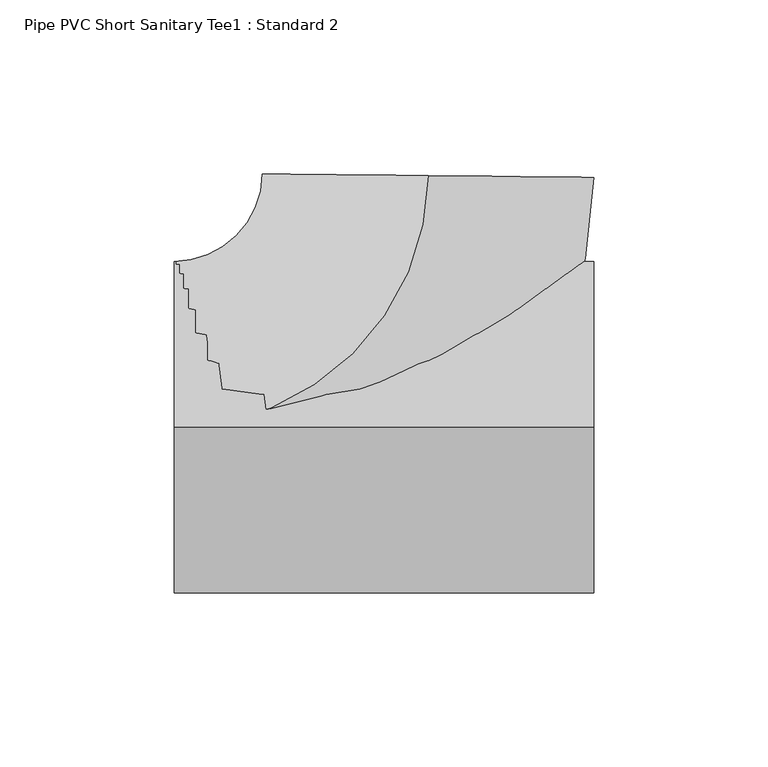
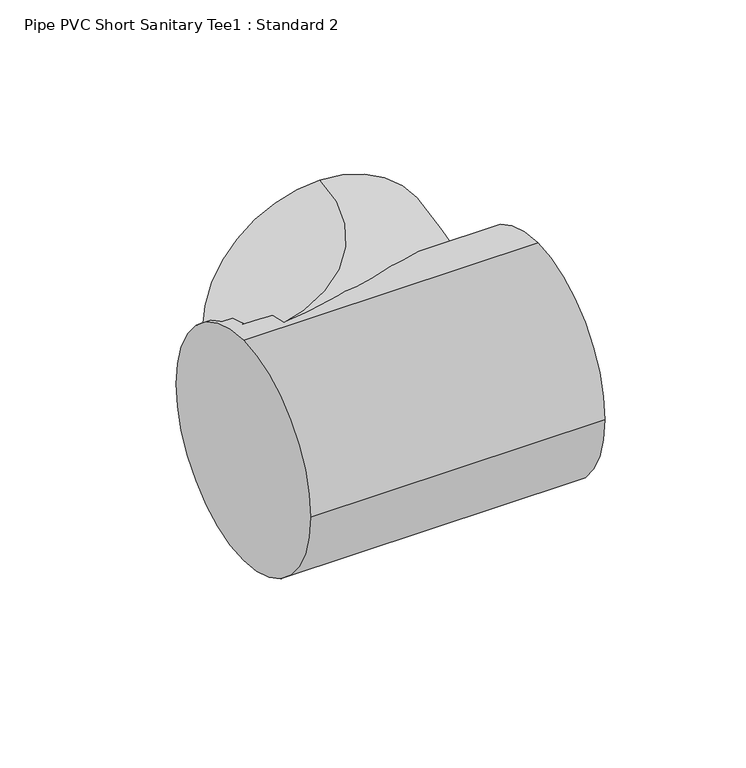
"""IFC4 building model written with IfcOpenShell, lengths in millimetres: pipe fitting geometry, Pipe PVC Short Sanitary Tee1 : Standard 2."""

from ifc_helpers import new_model, si_unit, point, frame, origin, origin_2d, place, context, project, spatial, circle_curve, ellipse_curve, trimmed, segment, composite_curve, outline, extrude, source, transform, mapped, element, save
from ifc_brep_helpers import plane_surface, revolved_surface, advanced_brep


def pipe_pvc_short_sanitary_tee1_standard_2_b39521ca(model_context):
    return source(origin(), model_context, "Body", "SolidModel", [
        extrude(outline(composite_curve([segment(trimmed(circle_curve(origin_2d(), 47.625), [point((0.0, 47.625))], [point((47.625, 0.0))], False, "CARTESIAN"), True, "CONTINUOUS"), segment(trimmed(circle_curve(origin_2d(), 47.625), [point((47.625, 0.0))], [point((0.0, -47.625))], False, "CARTESIAN"), True, "CONTINUOUS"), segment(trimmed(circle_curve(origin_2d(), 47.625), [point((0.0, -47.625))], [point((-47.625, 0.0))], False, "CARTESIAN"), True, "CONTINUOUS"), segment(trimmed(circle_curve(origin_2d(), 47.625), [point((-47.625, 0.0))], [point((0.0, 47.625))], False, "CARTESIAN"), True, "CONTINUOUS")], self_intersect=False)), frame((-72.2594639, 0.0, 0.0), z_axis=(1.0, 0.0, 0.0), x_axis=(0.0, 1.0, 0.0)), (0.0, 0.0, 1.0), 120.6459451),
        advanced_brep(
        [(-72.2594639, 0.0, 47.625), (-72.2594639, 47.625, 0.0), (-72.2594639, 0.0, -47.625), (-72.2594639, -47.625, 0.0), (0.7614812, 72.2554515, 47.625), (48.3838367, 71.753572, 0.0), (0.7614812, 72.2554515, -47.625), (-46.8608743, 72.7573309, 0.0)],
        [
            (0, 1, circle_curve(frame((-72.2594639, 0.0, 0.0), z_axis=(-1.0, 0.0, 0.0), x_axis=(0.0, 1.0, 0.0)), 47.625)),
            (1, 2, circle_curve(frame((-72.2594639, 0.0, 0.0), z_axis=(-1.0, 0.0, 0.0), x_axis=(0.0, 1.0, 0.0)), 47.625)),
            (2, 3, circle_curve(frame((-72.2594639, 0.0, 0.0), z_axis=(-1.0, 0.0, 0.0), x_axis=(0.0, 1.0, 0.0)), 47.625)),
            (3, 0, circle_curve(frame((-72.2594639, 0.0, 0.0), z_axis=(-1.0, 0.0, 0.0), x_axis=(0.0, 1.0, 0.0)), 47.625)),
            (4, 5, circle_curve(frame((0.7614812, 72.2554515, 0.0), z_axis=(0.010538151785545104, 0.9999444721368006, 0.0), x_axis=(-0.9999444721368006, 0.010538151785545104, 0.0)), 47.625)),
            (5, 6, circle_curve(frame((0.7614812, 72.2554515, 0.0), z_axis=(0.010538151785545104, 0.9999444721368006, 0.0), x_axis=(-0.9999444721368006, 0.010538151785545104, 0.0)), 47.625)),
            (6, 7, circle_curve(frame((0.7614812, 72.2554515, 0.0), z_axis=(0.010538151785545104, 0.9999444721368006, 0.0), x_axis=(-0.9999444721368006, 0.010538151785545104, 0.0)), 47.625)),
            (7, 4, circle_curve(frame((0.7614812, 72.2554515, 0.0), z_axis=(0.010538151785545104, 0.9999444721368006, 0.0), x_axis=(-0.9999444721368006, 0.010538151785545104, 0.0)), 47.625)),
            (7, 1, circle_curve(frame((-72.2594639, 73.025, 0.0), z_axis=(0.0, 0.0, -1.0), x_axis=(0.0, -1.0, 0.0)), 25.4)),
            (0, 4, circle_curve(frame((-72.2594639, 73.025, 47.625), z_axis=(0.0, 0.0, 1.0), x_axis=(0.0, -1.0, 0.0)), 73.025)),
            (6, 2, circle_curve(frame((-72.2594639, 73.025, -47.625), z_axis=(0.0, 0.0, -1.0), x_axis=(0.0, -1.0, 0.0)), 73.025)),
            (5, 3, circle_curve(frame((-72.2594639, 73.025, 0.0), z_axis=(0.0, 0.0, -1.0), x_axis=(0.0, -1.0, 0.0)), 120.65)),
        ],
        [
            plane_surface(frame((-72.2594639, 0.0, 0.0), z_axis=(-1.0, 0.0, 0.0), x_axis=(0.0, 0.0, 1.0))),
            plane_surface(frame((0.7614812, 72.2554515, 0.0), z_axis=(0.01053815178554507, 0.9999444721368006, 0.0), x_axis=(0.0, 0.0, 1.0))),
            revolved_surface(trimmed(ellipse_curve(frame((-72.2594639, 0.0, 0.0), z_axis=(-1.0, 0.0, 0.0), x_axis=(0.0, 1.0, 0.0)), 47.625, 47.625), [point((-72.2594639, 0.0, 47.625))], [point((-72.2594639, 47.625, 0.0))], True, "CARTESIAN"), (-72.2594639, 73.025, 0.0), (0.0, 0.0, 1.0)),
            revolved_surface(trimmed(ellipse_curve(frame((-72.2594639, 0.0, 0.0), z_axis=(-1.0, 0.0, 0.0), x_axis=(0.0, 1.0, 0.0)), 47.625, 47.625), [point((-72.2594639, 47.625, 0.0))], [point((-72.2594639, 0.0, -47.625))], True, "CARTESIAN"), (-72.2594639, 73.025, 0.0), (0.0, 0.0, 1.0)),
            revolved_surface(trimmed(ellipse_curve(frame((-72.2594639, 0.0, 0.0), z_axis=(-1.0, 0.0, 0.0), x_axis=(0.0, 1.0, 0.0)), 47.625, 47.625), [point((-72.2594639, 0.0, -47.625))], [point((-72.2594639, -47.625, 0.0))], True, "CARTESIAN"), (-72.2594639, 73.025, 0.0), (0.0, 0.0, 1.0)),
            revolved_surface(trimmed(ellipse_curve(frame((-72.2594639, 0.0, 0.0), z_axis=(-1.0, 0.0, 0.0), x_axis=(0.0, 1.0, 0.0)), 47.625, 47.625), [point((-72.2594639, -47.625, 0.0))], [point((-72.2594639, 0.0, 47.625))], True, "CARTESIAN"), (-72.2594639, 73.025, 0.0), (0.0, 0.0, 1.0)),
        ],
        [
            (0, [[1, 2, 3, 4]]),
            (1, [[5, 6, 7, 8]]),
            (2, [[9, -1, 10, -8]]),
            (3, [[11, -2, -9, -7]]),
            (4, [[12, -3, -11, -6]]),
            (5, [[-10, -4, -12, -5]]),
        ],
    ),
        advanced_brep(
        [(-72.2594639, 0.0, 47.625), (-72.2594639, 47.625, 0.0), (-72.2594639, 0.0, -47.625), (-72.2594639, -47.625, 0.0), (0.7614812, 72.2554515, 47.625), (48.3838367, 71.753572, 0.0), (0.7614812, 72.2554515, -47.625), (-46.8608743, 72.7573309, 0.0)],
        [
            (0, 1, circle_curve(frame((-72.2594639, 0.0, 0.0), z_axis=(-1.0, 0.0, 0.0), x_axis=(0.0, 1.0, 0.0)), 47.625)),
            (1, 2, circle_curve(frame((-72.2594639, 0.0, 0.0), z_axis=(-1.0, 0.0, 0.0), x_axis=(0.0, 1.0, 0.0)), 47.625)),
            (2, 3, circle_curve(frame((-72.2594639, 0.0, 0.0), z_axis=(-1.0, 0.0, 0.0), x_axis=(0.0, 1.0, 0.0)), 47.625)),
            (3, 0, circle_curve(frame((-72.2594639, 0.0, 0.0), z_axis=(-1.0, 0.0, 0.0), x_axis=(0.0, 1.0, 0.0)), 47.625)),
            (4, 5, circle_curve(frame((0.7614812, 72.2554515, 0.0), z_axis=(0.010538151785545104, 0.9999444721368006, 0.0), x_axis=(-0.9999444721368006, 0.010538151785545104, 0.0)), 47.625)),
            (5, 6, circle_curve(frame((0.7614812, 72.2554515, 0.0), z_axis=(0.010538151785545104, 0.9999444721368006, 0.0), x_axis=(-0.9999444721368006, 0.010538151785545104, 0.0)), 47.625)),
            (6, 7, circle_curve(frame((0.7614812, 72.2554515, 0.0), z_axis=(0.010538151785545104, 0.9999444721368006, 0.0), x_axis=(-0.9999444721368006, 0.010538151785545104, 0.0)), 47.625)),
            (7, 4, circle_curve(frame((0.7614812, 72.2554515, 0.0), z_axis=(0.010538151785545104, 0.9999444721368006, 0.0), x_axis=(-0.9999444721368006, 0.010538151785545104, 0.0)), 47.625)),
            (7, 1, circle_curve(frame((-72.2594639, 73.025, 0.0), z_axis=(0.0, 0.0, -1.0), x_axis=(0.0, -1.0, 0.0)), 25.4)),
            (0, 4, circle_curve(frame((-72.2594639, 73.025, 47.625), z_axis=(0.0, 0.0, 1.0), x_axis=(0.0, -1.0, 0.0)), 73.025)),
            (6, 2, circle_curve(frame((-72.2594639, 73.025, -47.625), z_axis=(0.0, 0.0, -1.0), x_axis=(0.0, -1.0, 0.0)), 73.025)),
            (5, 3, circle_curve(frame((-72.2594639, 73.025, 0.0), z_axis=(0.0, 0.0, -1.0), x_axis=(0.0, -1.0, 0.0)), 120.65)),
        ],
        [
            plane_surface(frame((-72.2594639, 0.0, 0.0), z_axis=(-1.0, 0.0, 0.0), x_axis=(0.0, 0.0, 1.0))),
            plane_surface(frame((0.7614812, 72.2554515, 0.0), z_axis=(0.01053815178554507, 0.9999444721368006, 0.0), x_axis=(0.0, 0.0, 1.0))),
            revolved_surface(trimmed(ellipse_curve(frame((-72.2594639, 0.0, 0.0), z_axis=(-1.0, 0.0, 0.0), x_axis=(0.0, 1.0, 0.0)), 47.625, 47.625), [point((-72.2594639, 0.0, 47.625))], [point((-72.2594639, 47.625, 0.0))], True, "CARTESIAN"), (-72.2594639, 73.025, 0.0), (0.0, 0.0, 1.0)),
            revolved_surface(trimmed(ellipse_curve(frame((-72.2594639, 0.0, 0.0), z_axis=(-1.0, 0.0, 0.0), x_axis=(0.0, 1.0, 0.0)), 47.625, 47.625), [point((-72.2594639, 47.625, 0.0))], [point((-72.2594639, 0.0, -47.625))], True, "CARTESIAN"), (-72.2594639, 73.025, 0.0), (0.0, 0.0, 1.0)),
            revolved_surface(trimmed(ellipse_curve(frame((-72.2594639, 0.0, 0.0), z_axis=(-1.0, 0.0, 0.0), x_axis=(0.0, 1.0, 0.0)), 47.625, 47.625), [point((-72.2594639, 0.0, -47.625))], [point((-72.2594639, -47.625, 0.0))], True, "CARTESIAN"), (-72.2594639, 73.025, 0.0), (0.0, 0.0, 1.0)),
            revolved_surface(trimmed(ellipse_curve(frame((-72.2594639, 0.0, 0.0), z_axis=(-1.0, 0.0, 0.0), x_axis=(0.0, 1.0, 0.0)), 47.625, 47.625), [point((-72.2594639, -47.625, 0.0))], [point((-72.2594639, 0.0, 47.625))], True, "CARTESIAN"), (-72.2594639, 73.025, 0.0), (0.0, 0.0, 1.0)),
        ],
        [
            (0, [[1, 2, 3, 4]]),
            (1, [[5, 6, 7, 8]]),
            (2, [[9, -1, 10, -8]]),
            (3, [[11, -2, -9, -7]]),
            (4, [[12, -3, -11, -6]]),
            (5, [[-10, -4, -12, -5]]),
        ],
    ),
        extrude(outline(composite_curve([segment(trimmed(circle_curve(origin_2d(), 47.625), [point((0.0, 47.625))], [point((47.625, 0.0))], False, "CARTESIAN"), True, "CONTINUOUS"), segment(trimmed(circle_curve(origin_2d(), 47.625), [point((47.625, 0.0))], [point((0.0, -47.625))], False, "CARTESIAN"), True, "CONTINUOUS"), segment(trimmed(circle_curve(origin_2d(), 47.625), [point((0.0, -47.625))], [point((-47.625, 0.0))], False, "CARTESIAN"), True, "CONTINUOUS"), segment(trimmed(circle_curve(origin_2d(), 47.625), [point((-47.625, 0.0))], [point((0.0, 47.625))], False, "CARTESIAN"), True, "CONTINUOUS")], self_intersect=False)), frame((-72.2594639, 0.0, 0.0), z_axis=(1.0, 0.0, 0.0), x_axis=(0.0, 1.0, 0.0)), (0.0, 0.0, 1.0), 120.6459451),
    ])


if __name__ == "__main__":
    model = new_model("IFC4")
    model_context = context("Model", 3, world=origin())
    ifc_project = project(units=[si_unit("LENGTHUNIT", "METRE", prefix="MILLI")], contexts=[model_context])
    site = spatial("IfcSite", under=ifc_project)
    building = spatial("IfcBuilding", under=site)
    placement = place(None, origin())
    pipe_pvc_short_sanitary_tee1_standard_2_shape = pipe_pvc_short_sanitary_tee1_standard_2_b39521ca(model_context)
    element("IfcPipeFitting", 1, ObjectType="Pipe PVC Short Sanitary Tee1 : Standard 2", at=placement, inside=building, context=model_context, shape_type="MappedRepresentation", body=[
        mapped(pipe_pvc_short_sanitary_tee1_standard_2_shape, transform((0.0, 0.0, 0.0), x_axis=(1.0, 0.0, 0.0), y_axis=(0.0, 1.0, 0.0), z_axis=(0.0, 0.0, 1.0))),
    ])
    save(model, "model.ifc")
